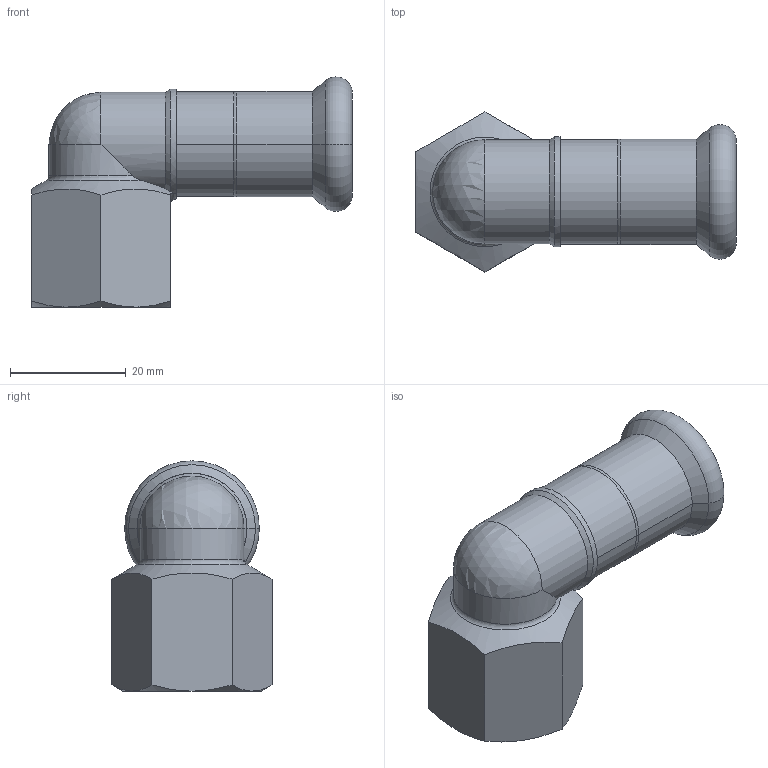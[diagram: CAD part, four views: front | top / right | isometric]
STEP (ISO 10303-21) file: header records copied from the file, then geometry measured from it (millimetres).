
FILE_DESCRIPTION(('Creo Elements/Direct Modeling STEP Export'),'2;1');
FILE_NAME('R2709 15xRp1-2.stp','2019-09-24T16:28:58',(''),(''),'PTC Creo Elements/Direct Modeling STEP processor for AP214 (Solid Model)','PTC Creo Elements/Direct Modeling 19.0C 15-Aug-2015 (C) Parametric Technology GmbH','');
FILE_SCHEMA(('AUTOMOTIVE_DESIGN { 1 0 10303 214 1 1 1 1 }'));
Length unit declared in the file: millimetre
Products named in the file (1): R2709_15xRp1-2
Bounding box: 55.5 x 27.71 x 39.85 mm (x, y, z)
Volume: 10500.4 mm3; surface area: 9038.2 mm2
Topology: 1 solids, 1 shells, 85 faces, 215 edges, 135 vertices
Faces by surface type: plane 39, cylinder 26, cone 12, torus 6, sphere 2
Entity records: 3484 total; most frequent: CARTESIAN_POINT 1547, ORIENTED_EDGE 422, DIRECTION 351, EDGE_CURVE 211, VERTEX_POINT 135, AXIS2_PLACEMENT_3D 126, EDGE_LOOP 100, VECTOR 99
